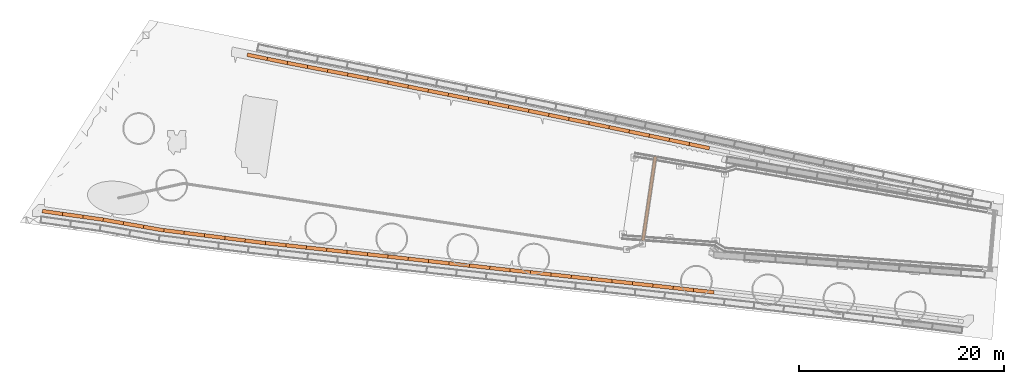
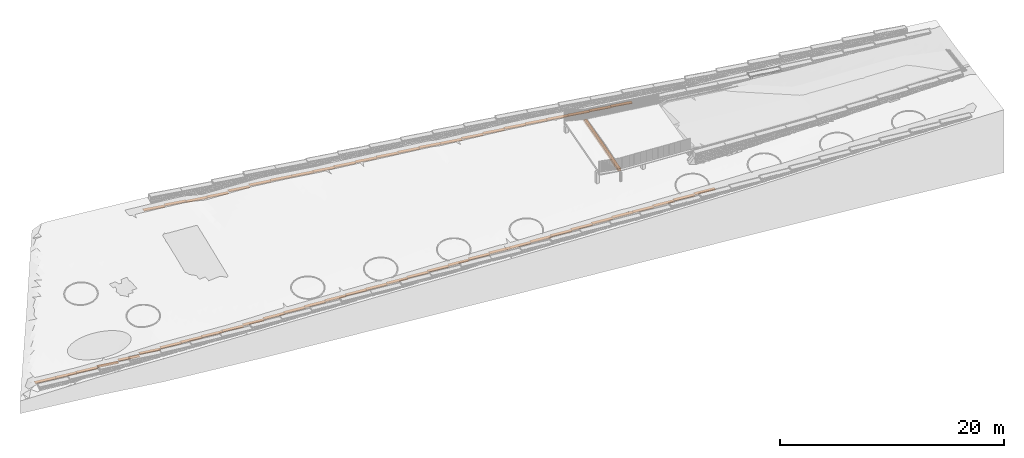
# Not in any storey, part 12 of 45: 57 proxies.
"""IFC4 model written with IfcOpenShell, lengths in metres."""

from ifc_helpers import new_model, si_unit, direction, frame, origin_with_axes, place, context, subcontext, project, spatial, polyline, outline, extrude, material, element, save


model = new_model("IFC4")

# Units and contexts
model_context = context("Model", 3, precision=1e-05, world=origin_with_axes(), true_north=direction((0.0, 1.0)))
body_context = subcontext(model_context, "Body", "Model", "MODEL_VIEW")
ifc_project = project(units=[si_unit("VOLUMEUNIT", "CUBIC_METRE"), si_unit("LENGTHUNIT", "METRE"), si_unit("AREAUNIT", "SQUARE_METRE")], contexts=[model_context])

# Site
site_placement = place(None, origin_with_axes())
site = spatial("IfcSite", under=ifc_project, at=site_placement, Name="Lares · Rua das Mercês · artigo 4771")

# Proxies
ifc_material_1 = material(Name="Caleiras · betão", Category="concrete")
proxy_1_placement = place(site_placement, frame((0.0, 0.0, 15.24), z_axis=(0.0, 0.0, 1.0), x_axis=(1.0, -1.03767253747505e-17, 0.0)))
element("IfcBuildingElementProxy", 1, at=proxy_1_placement, inside=site, material=ifc_material_1, Name="Interceção · caleira estacionamento", ObjectType="Interceção · caleira estacionamento", PredefinedType="USERDEFINED", context=body_context, shape_type="SweptSolid", body=[
    extrude(outline(polyline([(49.7139697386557, 11.3391718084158), (50.0108817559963, 11.2962317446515), (48.8014522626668, 3.0826996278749), (48.5045413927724, 3.12564748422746), (49.7139697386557, 11.3391718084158)])), origin_with_axes(), (0.0, 0.0, 1.0), 0.25),
])
ifc_material_2 = material(Name="Brita drenante", Category="stone")
proxy_2_placement = place(site_placement, frame((0.0, 0.0, 13.4738156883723), z_axis=(0.0, 0.0, 1.0), x_axis=(1.0, -1.03767253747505e-17, 0.0)))
element("IfcBuildingElementProxy", 2, at=proxy_2_placement, inside=site, material=ifc_material_2, Name="Limite north · vala de interceção", ObjectType="Limite north · vala de interceção", PredefinedType="USERDEFINED", context=body_context, shape_type="SweptSolid", body=[
    extrude(outline(polyline([(12.0458830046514, 21.0135119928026), (11.9733673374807, 20.6608911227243), (10.0143625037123, 21.0637559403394), (10.086878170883, 21.4163768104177), (12.0458830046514, 21.0135119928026)])), origin_with_axes(), (0.0, 0.0, 1.0), 0.06),
])
proxy_3_placement = place(site_placement, frame((0.0, 0.0, 13.5828101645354), z_axis=(0.0, 0.0, 1.0), x_axis=(1.0, -1.03767253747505e-17, 0.0)))
element("IfcBuildingElementProxy", 3, at=proxy_3_placement, inside=site, material=ifc_material_2, Name="Limite north · vala de interceção", ObjectType="Limite north · vala de interceção", PredefinedType="USERDEFINED", context=body_context, shape_type="SweptSolid", body=[
    extrude(outline(polyline([(13.7537541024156, 20.6622922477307), (14.0032633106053, 20.6143063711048), (13.935273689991, 20.2607849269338), (13.684631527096, 20.3089886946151), (13.6823685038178, 20.3094389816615), (11.9733673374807, 20.6608911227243), (12.0458830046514, 21.0135119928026), (13.7537541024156, 20.6622922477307)])), origin_with_axes(), (0.0, 0.0, 1.0), 0.06),
])
proxy_4_placement = place(site_placement, frame((0.0, 0.0, 13.5164708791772), z_axis=(0.0, 0.0, 1.0), x_axis=(1.0, -1.03767253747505e-17, 0.0)))
element("IfcBuildingElementProxy", 4, at=proxy_4_placement, inside=site, material=ifc_material_2, Name="Limite north · vala de interceção", ObjectType="Limite north · vala de interceção", PredefinedType="USERDEFINED", context=body_context, shape_type="SweptSolid", body=[
    extrude(outline(polyline([(15.9672713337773, 20.2365862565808), (15.899281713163, 19.8830648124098), (13.935273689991, 20.2607849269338), (14.0032633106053, 20.6143063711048), (15.9672713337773, 20.2365862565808)])), origin_with_axes(), (0.0, 0.0, 1.0), 0.06),
])
proxy_5_placement = place(site_placement, frame((0.0, 0.0, 13.558468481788), z_axis=(0.0, 0.0, 1.0), x_axis=(1.0, -1.03767253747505e-17, 0.0)))
element("IfcBuildingElementProxy", 5, at=proxy_5_placement, inside=site, material=ifc_material_2, Name="Limite north · vala de interceção", ObjectType="Limite north · vala de interceção", PredefinedType="USERDEFINED", context=body_context, shape_type="SweptSolid", body=[
    extrude(outline(polyline([(17.9312793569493, 19.8588661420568), (17.863289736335, 19.5053446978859), (15.899281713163, 19.8830648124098), (15.9672713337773, 20.2365862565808), (17.9312793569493, 19.8588661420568)])), origin_with_axes(), (0.0, 0.0, 1.0), 0.06),
])
proxy_6_placement = place(site_placement, frame((0.0, 0.0, 13.7632660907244), z_axis=(0.0, 0.0, 1.0), x_axis=(1.0, -1.03767253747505e-17, 0.0)))
element("IfcBuildingElementProxy", 6, at=proxy_6_placement, inside=site, material=ifc_material_2, Name="Limite north · vala de interceção", ObjectType="Limite north · vala de interceção", PredefinedType="USERDEFINED", context=body_context, shape_type="SweptSolid", body=[
    extrude(outline(polyline([(19.8952873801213, 19.4811460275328), (19.827297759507, 19.1276245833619), (17.863289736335, 19.5053446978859), (17.9312793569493, 19.8588661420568), (19.8952873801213, 19.4811460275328)])), origin_with_axes(), (0.0, 0.0, 1.0), 0.06),
])
proxy_7_placement = place(site_placement, frame((0.0, 0.0, 13.9369848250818), z_axis=(0.0, 0.0, 1.0), x_axis=(1.0, -1.03767253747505e-17, 0.0)))
element("IfcBuildingElementProxy", 7, at=proxy_7_placement, inside=site, material=ifc_material_2, Name="Limite north · vala de interceção", ObjectType="Limite north · vala de interceção", PredefinedType="USERDEFINED", context=body_context, shape_type="SweptSolid", body=[
    extrude(outline(polyline([(21.807899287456, 19.1133104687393), (21.8096475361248, 19.1129652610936), (21.8609432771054, 19.1025723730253), (21.7894571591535, 18.7497413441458), (21.7390346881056, 18.7599573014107), (19.827297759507, 19.1276245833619), (19.8952873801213, 19.4811460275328), (21.807899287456, 19.1133104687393)])), origin_with_axes(), (0.0, 0.0, 1.0), 0.06),
])
proxy_8_placement = place(site_placement, frame((0.0, 0.0, 13.9992573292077), z_axis=(0.0, 0.0, 1.0), x_axis=(1.0, -1.03767253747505e-17, 0.0)))
element("IfcBuildingElementProxy", 8, at=proxy_8_placement, inside=site, material=ifc_material_2, Name="Limite north · vala de interceção", ObjectType="Limite north · vala de interceção", PredefinedType="USERDEFINED", context=body_context, shape_type="SweptSolid", body=[
    extrude(outline(polyline([(23.8211156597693, 18.7054272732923), (23.7496295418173, 18.3525962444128), (21.7894571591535, 18.7497413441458), (21.8609432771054, 19.1025723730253), (23.8211156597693, 18.7054272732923)])), origin_with_axes(), (0.0, 0.0, 1.0), 0.06),
])
proxy_9_placement = place(site_placement, frame((0.0, 0.0, 14.0174718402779), z_axis=(0.0, 0.0, 1.0), x_axis=(1.0, -1.03767253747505e-17, 0.0)))
element("IfcBuildingElementProxy", 9, at=proxy_9_placement, inside=site, material=ifc_material_2, Name="Limite north · vala de interceção", ObjectType="Limite north · vala de interceção", PredefinedType="USERDEFINED", context=body_context, shape_type="SweptSolid", body=[
    extrude(outline(polyline([(25.7812880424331, 18.3082821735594), (25.7098019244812, 17.9554511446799), (23.7496295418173, 18.3525962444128), (23.8211156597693, 18.7054272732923), (25.7812880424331, 18.3082821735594)])), origin_with_axes(), (0.0, 0.0, 1.0), 0.06),
])
proxy_10_placement = place(site_placement, frame((0.0, 0.0, 14.0656124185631), z_axis=(0.0, 0.0, 1.0), x_axis=(1.0, -1.03767253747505e-17, 0.0)))
element("IfcBuildingElementProxy", 10, at=proxy_10_placement, inside=site, material=ifc_material_2, Name="Limite north · vala de interceção", ObjectType="Limite north · vala de interceção", PredefinedType="USERDEFINED", context=body_context, shape_type="SweptSolid", body=[
    extrude(outline(polyline([(27.565370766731, 17.9468141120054), (27.7410391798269, 17.9117680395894), (27.6706066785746, 17.5587251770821), (27.4946747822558, 17.593823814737), (27.494147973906, 17.5939297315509), (25.7098019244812, 17.9554511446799), (25.7812880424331, 18.3082821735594), (27.565370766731, 17.9468141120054)])), origin_with_axes(), (0.0, 0.0, 1.0), 0.06),
])
proxy_11_placement = place(site_placement, frame((0.0, 0.0, 14.1510970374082), z_axis=(0.0, 0.0, 1.0), x_axis=(1.0, -1.03767253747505e-17, 0.0)))
element("IfcBuildingElementProxy", 11, at=proxy_11_placement, inside=site, material=ifc_material_2, Name="Limite north · vala de interceção", ObjectType="Limite north · vala de interceção", PredefinedType="USERDEFINED", context=body_context, shape_type="SweptSolid", body=[
    extrude(outline(polyline([(29.7023884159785, 17.5204763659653), (29.6319559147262, 17.167433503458), (27.6706066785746, 17.5587251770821), (27.7410391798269, 17.9117680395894), (29.7023884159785, 17.5204763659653)])), origin_with_axes(), (0.0, 0.0, 1.0), 0.06),
])
proxy_12_placement = place(site_placement, frame((0.0, 0.0, 14.2234581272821), z_axis=(0.0, 0.0, 1.0), x_axis=(1.0, -1.03767253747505e-17, 0.0)))
element("IfcBuildingElementProxy", 12, at=proxy_12_placement, inside=site, material=ifc_material_2, Name="Limite north · vala de interceção", ObjectType="Limite north · vala de interceção", PredefinedType="USERDEFINED", context=body_context, shape_type="SweptSolid", body=[
    extrude(outline(polyline([(31.6637376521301, 17.1291846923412), (31.5933051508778, 16.7761418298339), (29.6319559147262, 17.167433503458), (29.7023884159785, 17.5204763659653), (31.6637376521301, 17.1291846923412)])), origin_with_axes(), (0.0, 0.0, 1.0), 0.06),
])
proxy_13_placement = place(site_placement, frame((0.0, 0.0, 14.2939755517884), z_axis=(0.0, 0.0, 1.0), x_axis=(1.0, -1.03767253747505e-17, 0.0)))
element("IfcBuildingElementProxy", 13, at=proxy_13_placement, inside=site, material=ifc_material_2, Name="Limite north · vala de interceção", ObjectType="Limite north · vala de interceção", PredefinedType="USERDEFINED", context=body_context, shape_type="SweptSolid", body=[
    extrude(outline(polyline([(33.6250868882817, 16.7378930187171), (33.5546543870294, 16.3848501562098), (31.5933051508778, 16.7761418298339), (31.6637376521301, 17.1291846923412), (33.6250868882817, 16.7378930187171)])), origin_with_axes(), (0.0, 0.0, 1.0), 0.06),
])
proxy_14_placement = place(site_placement, frame((0.0, 0.0, 14.3644929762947), z_axis=(0.0, 0.0, 1.0), x_axis=(1.0, -1.03767253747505e-17, 0.0)))
element("IfcBuildingElementProxy", 14, at=proxy_14_placement, inside=site, material=ifc_material_2, Name="Limite north · vala de interceção", ObjectType="Limite north · vala de interceção", PredefinedType="USERDEFINED", context=body_context, shape_type="SweptSolid", body=[
    extrude(outline(polyline([(35.5864361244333, 16.346601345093), (35.5160036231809, 15.9935584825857), (33.5546543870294, 16.3848501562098), (33.6250868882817, 16.7378930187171), (35.5864361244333, 16.346601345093)])), origin_with_axes(), (0.0, 0.0, 1.0), 0.06),
])
proxy_15_placement = place(site_placement, frame((0.0, 0.0, 14.4349426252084), z_axis=(0.0, 0.0, 1.0), x_axis=(1.0, -1.03767253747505e-17, 0.0)))
element("IfcBuildingElementProxy", 15, at=proxy_15_placement, inside=site, material=ifc_material_2, Name="Limite north · vala de interceção", ObjectType="Limite north · vala de interceção", PredefinedType="USERDEFINED", context=body_context, shape_type="SweptSolid", body=[
    extrude(outline(polyline([(36.3861439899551, 16.187058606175), (36.3870338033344, 16.1868787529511), (37.5474916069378, 15.9492741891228), (37.4752794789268, 15.5965910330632), (36.3152663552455, 15.83410454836), (35.5160036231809, 15.9935584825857), (35.5864361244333, 16.346601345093), (36.3861439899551, 16.187058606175)])), origin_with_axes(), (0.0, 0.0, 1.0), 0.06),
])
proxy_16_placement = place(site_placement, frame((0.0, 0.0, 14.437421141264), z_axis=(0.0, 0.0, 1.0), x_axis=(1.0, -1.03767253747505e-17, 0.0)))
element("IfcBuildingElementProxy", 16, at=proxy_16_placement, inside=site, material=ifc_material_2, Name="Limite north · vala de interceção", ObjectType="Limite north · vala de interceção", PredefinedType="USERDEFINED", context=body_context, shape_type="SweptSolid", body=[
    extrude(outline(polyline([(39.5068424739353, 15.548095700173), (39.4346303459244, 15.1954125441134), (37.4752794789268, 15.5965910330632), (37.5474916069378, 15.9492741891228), (39.5068424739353, 15.548095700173)])), origin_with_axes(), (0.0, 0.0, 1.0), 0.06),
])
proxy_17_placement = place(site_placement, frame((0.0, 0.0, 14.5450334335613), z_axis=(0.0, 0.0, 1.0), x_axis=(1.0, -1.03767253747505e-17, 0.0)))
element("IfcBuildingElementProxy", 17, at=proxy_17_placement, inside=site, material=ifc_material_2, Name="Limite north · vala de interceção", ObjectType="Limite north · vala de interceção", PredefinedType="USERDEFINED", context=body_context, shape_type="SweptSolid", body=[
    extrude(outline(polyline([(41.4661933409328, 15.1469172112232), (41.3939812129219, 14.7942340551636), (39.4346303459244, 15.1954125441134), (39.5068424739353, 15.548095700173), (41.4661933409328, 15.1469172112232)])), origin_with_axes(), (0.0, 0.0, 1.0), 0.06),
])
proxy_18_placement = place(site_placement, frame((0.0, 0.0, 14.6526457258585), z_axis=(0.0, 0.0, 1.0), x_axis=(1.0, -1.03767253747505e-17, 0.0)))
element("IfcBuildingElementProxy", 18, at=proxy_18_placement, inside=site, material=ifc_material_2, Name="Limite north · vala de interceção", ObjectType="Limite north · vala de interceção", PredefinedType="USERDEFINED", context=body_context, shape_type="SweptSolid", body=[
    extrude(outline(polyline([(43.4255442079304, 14.7457387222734), (43.3533320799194, 14.3930555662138), (41.3939812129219, 14.7942340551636), (41.4661933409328, 15.1469172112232), (43.4255442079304, 14.7457387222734)])), origin_with_axes(), (0.0, 0.0, 1.0), 0.06),
])
proxy_19_placement = place(site_placement, frame((0.0, 0.0, 14.7427260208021), z_axis=(0.0, 0.0, 1.0), x_axis=(1.0, -1.03767253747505e-17, 0.0)))
element("IfcBuildingElementProxy", 19, at=proxy_19_placement, inside=site, material=ifc_material_2, Name="Limite north · vala de interceção", ObjectType="Limite north · vala de interceção", PredefinedType="USERDEFINED", context=body_context, shape_type="SweptSolid", body=[
    extrude(outline(polyline([(45.3848950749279, 14.3445602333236), (45.3126829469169, 13.991877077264), (43.3533320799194, 14.3930555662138), (43.4255442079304, 14.7457387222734), (45.3848950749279, 14.3445602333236)])), origin_with_axes(), (0.0, 0.0, 1.0), 0.06),
])
proxy_20_placement = place(site_placement, frame((0.0, 0.0, 14.8053566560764), z_axis=(0.0, 0.0, 1.0), x_axis=(1.0, -1.03767253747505e-17, 0.0)))
element("IfcBuildingElementProxy", 20, at=proxy_20_placement, inside=site, material=ifc_material_2, Name="Limite north · vala de interceção", ObjectType="Limite north · vala de interceção", PredefinedType="USERDEFINED", context=body_context, shape_type="SweptSolid", body=[
    extrude(outline(polyline([(45.8690664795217, 14.2454257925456), (45.8699313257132, 14.2452465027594), (47.3436109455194, 13.9359676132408), (47.2696691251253, 13.5836430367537), (45.7964217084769, 13.8928312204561), (45.3126829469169, 13.991877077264), (45.3848950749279, 14.3445602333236), (45.8690664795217, 14.2454257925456)])), origin_with_axes(), (0.0, 0.0, 1.0), 0.06),
])
proxy_21_placement = place(site_placement, frame((0.0, 0.0, 14.8355579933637), z_axis=(0.0, 0.0, 1.0), x_axis=(1.0, -1.03767253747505e-17, 0.0)))
element("IfcBuildingElementProxy", 21, at=proxy_21_placement, inside=site, material=ifc_material_2, Name="Limite north · vala de interceção", ObjectType="Limite north · vala de interceção", PredefinedType="USERDEFINED", context=body_context, shape_type="SweptSolid", body=[
    extrude(outline(polyline([(49.3009697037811, 13.5251797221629), (49.227027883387, 13.1728551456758), (47.2696691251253, 13.5836430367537), (47.3436109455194, 13.9359676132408), (49.3009697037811, 13.5251797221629)])), origin_with_axes(), (0.0, 0.0, 1.0), 0.06),
])
proxy_22_placement = place(site_placement, frame((0.0, 0.0, 14.862859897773), z_axis=(0.0, 0.0, 1.0), x_axis=(1.0, -1.03767253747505e-17, 0.0)))
element("IfcBuildingElementProxy", 22, at=proxy_22_placement, inside=site, material=ifc_material_2, Name="Limite north · vala de interceção", ObjectType="Limite north · vala de interceção", PredefinedType="USERDEFINED", context=body_context, shape_type="SweptSolid", body=[
    extrude(outline(polyline([(51.2583284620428, 13.1143918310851), (51.1843866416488, 12.762067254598), (49.227027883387, 13.1728551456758), (49.3009697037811, 13.5251797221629), (51.2583284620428, 13.1143918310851)])), origin_with_axes(), (0.0, 0.0, 1.0), 0.06),
])
proxy_23_placement = place(site_placement, frame((0.0, 0.0, 14.9166186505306), z_axis=(0.0, 0.0, 1.0), x_axis=(1.0, -1.03767253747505e-17, 0.0)))
element("IfcBuildingElementProxy", 23, at=proxy_23_placement, inside=site, material=ifc_material_2, Name="Limite north · vala de interceção", ObjectType="Limite north · vala de interceção", PredefinedType="USERDEFINED", context=body_context, shape_type="SweptSolid", body=[
    extrude(outline(polyline([(53.2156872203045, 12.7036039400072), (53.1417453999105, 12.3512793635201), (51.1843866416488, 12.762067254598), (51.2583284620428, 13.1143918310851), (53.2156872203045, 12.7036039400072)])), origin_with_axes(), (0.0, 0.0, 1.0), 0.06),
])
proxy_24_placement = place(site_placement, frame((0.0, 0.0, 14.9682467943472), z_axis=(0.0, 0.0, 1.0), x_axis=(1.0, -1.03767253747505e-17, 0.0)))
element("IfcBuildingElementProxy", 24, at=proxy_24_placement, inside=site, material=ifc_material_2, Name="Limite north · vala de interceção", ObjectType="Limite north · vala de interceção", PredefinedType="USERDEFINED", context=body_context, shape_type="SweptSolid", body=[
    extrude(outline(polyline([(55.1730459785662, 12.2928160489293), (55.0991041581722, 11.9404914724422), (53.1417453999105, 12.3512793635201), (53.2156872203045, 12.7036039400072), (55.1730459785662, 12.2928160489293)])), origin_with_axes(), (0.0, 0.0, 1.0), 0.06),
])
proxy_25_placement = place(site_placement, frame((0.0, 0.0, 10.921681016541), z_axis=(0.0, 0.0, 1.0), x_axis=(1.0, -1.03767253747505e-17, 0.0)))
element("IfcBuildingElementProxy", 25, at=proxy_25_placement, inside=site, material=ifc_material_2, Name="Limite south · vala de interceção", ObjectType="Limite south · vala de interceção", PredefinedType="USERDEFINED", context=body_context, shape_type="SweptSolid", body=[
    extrude(outline(polyline([(-7.92506020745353, 5.88610903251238), (-7.97522409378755, 5.52962118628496), (-9.95571212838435, 5.80830944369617), (-9.90554824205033, 6.1647972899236), (-7.92506020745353, 5.88610903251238)])), origin_with_axes(), (0.0, 0.0, 1.0), 0.06),
])
proxy_26_placement = place(site_placement, frame((0.0, 0.0, 10.9393821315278), z_axis=(0.0, 0.0, 1.0), x_axis=(1.0, -1.03767253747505e-17, 0.0)))
element("IfcBuildingElementProxy", 26, at=proxy_26_placement, inside=site, material=ifc_material_2, Name="Limite south · vala de interceção", ObjectType="Limite south · vala de interceção", PredefinedType="USERDEFINED", context=body_context, shape_type="SweptSolid", body=[
    extrude(outline(polyline([(-5.94457217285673, 5.60742077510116), (-5.99473605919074, 5.25093292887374), (-7.97522409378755, 5.52962118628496), (-7.92506020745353, 5.88610903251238), (-5.94457217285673, 5.60742077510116)])), origin_with_axes(), (0.0, 0.0, 1.0), 0.06),
])
proxy_27_placement = place(site_placement, frame((0.0, 0.0, 10.9819497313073), z_axis=(0.0, 0.0, 1.0), x_axis=(1.0, -1.03767253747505e-17, 0.0)))
element("IfcBuildingElementProxy", 27, at=proxy_27_placement, inside=site, material=ifc_material_2, Name="Limite south · vala de interceção", ObjectType="Limite south · vala de interceção", PredefinedType="USERDEFINED", context=body_context, shape_type="SweptSolid", body=[
    extrude(outline(polyline([(-4.0119916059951, 5.33547391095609), (-4.0057745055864, 5.33448790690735), (-3.95813205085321, 5.32607551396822), (-4.02073013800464, 4.97155967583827), (-4.06527266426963, 4.97942470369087), (-5.99473605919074, 5.25093292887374), (-5.94457217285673, 5.60742077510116), (-4.0119916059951, 5.33547391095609)])), origin_with_axes(), (0.0, 0.0, 1.0), 0.06),
])
proxy_28_placement = place(site_placement, frame((0.0, 0.0, 11.0965665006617), z_axis=(0.0, 0.0, 1.0), x_axis=(1.0, -1.03767253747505e-17, 0.0)))
element("IfcBuildingElementProxy", 28, at=proxy_28_placement, inside=site, material=ifc_material_2, Name="Limite south · vala de interceção", ObjectType="Limite south · vala de interceção", PredefinedType="USERDEFINED", context=body_context, shape_type="SweptSolid", body=[
    extrude(outline(polyline([(-1.98859961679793, 4.97830836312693), (-2.05119770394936, 4.62379252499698), (-4.02073013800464, 4.97155967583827), (-3.95813205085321, 5.32607551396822), (-1.98859961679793, 4.97830836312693)])), origin_with_axes(), (0.0, 0.0, 1.0), 0.06),
])
proxy_29_placement = place(site_placement, frame((0.0, 0.0, 11.314682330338), z_axis=(0.0, 0.0, 1.0), x_axis=(1.0, -1.03767253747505e-17, 0.0)))
element("IfcBuildingElementProxy", 29, at=proxy_29_placement, inside=site, material=ifc_material_2, Name="Limite south · vala de interceção", ObjectType="Limite south · vala de interceção", PredefinedType="USERDEFINED", context=body_context, shape_type="SweptSolid", body=[
    extrude(outline(polyline([(-0.019067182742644, 4.63054121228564), (-0.081665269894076, 4.27602537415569), (-2.05119770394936, 4.62379252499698), (-1.98859961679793, 4.97830836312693), (-0.019067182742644, 4.63054121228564)])), origin_with_axes(), (0.0, 0.0, 1.0), 0.06),
])
proxy_30_placement = place(site_placement, frame((0.0, 0.0, 11.5619240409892), z_axis=(0.0, 0.0, 1.0), x_axis=(1.0, -1.03767253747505e-17, 0.0)))
element("IfcBuildingElementProxy", 30, at=proxy_30_placement, inside=site, material=ifc_material_2, Name="Limite south · vala de interceção", ObjectType="Limite south · vala de interceção", PredefinedType="USERDEFINED", context=body_context, shape_type="SweptSolid", body=[
    extrude(outline(polyline([(1.69864220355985, 4.32723932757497), (1.94361428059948, 4.29622234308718), (1.89839413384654, 3.93907372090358), (1.64906149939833, 3.97064281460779), (1.64037252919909, 3.97195920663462), (-0.0816652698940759, 4.27602537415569), (-0.019067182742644, 4.63054121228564), (1.69864220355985, 4.32723932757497)])), origin_with_axes(), (0.0, 0.0, 1.0), 0.06),
])
proxy_31_placement = place(site_placement, frame((0.0, 0.0, 11.7044998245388), z_axis=(0.0, 0.0, 1.0), x_axis=(1.0, -1.03767253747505e-17, 0.0)))
element("IfcBuildingElementProxy", 31, at=proxy_31_placement, inside=site, material=ifc_material_2, Name="Limite south · vala de interceção", ObjectType="Limite south · vala de interceção", PredefinedType="USERDEFINED", context=body_context, shape_type="SweptSolid", body=[
    extrude(outline(polyline([(3.92777329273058, 4.04499930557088), (3.88255314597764, 3.68785068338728), (1.89839413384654, 3.93907372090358), (1.94361428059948, 4.29622234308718), (3.92777329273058, 4.04499930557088)])), origin_with_axes(), (0.0, 0.0, 1.0), 0.06),
])
proxy_32_placement = place(site_placement, frame((0.0, 0.0, 11.7661044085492), z_axis=(0.0, 0.0, 1.0), x_axis=(1.0, -1.03767253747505e-17, 0.0)))
element("IfcBuildingElementProxy", 32, at=proxy_32_placement, inside=site, material=ifc_material_2, Name="Limite south · vala de interceção", ObjectType="Limite south · vala de interceção", PredefinedType="USERDEFINED", context=body_context, shape_type="SweptSolid", body=[
    extrude(outline(polyline([(5.91193230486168, 3.79377626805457), (5.86671215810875, 3.43662764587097), (3.88255314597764, 3.68785068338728), (3.92777329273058, 4.04499930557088), (5.91193230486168, 3.79377626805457)])), origin_with_axes(), (0.0, 0.0, 1.0), 0.06),
])
proxy_33_placement = place(site_placement, frame((0.0, 0.0, 11.8277089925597), z_axis=(0.0, 0.0, 1.0), x_axis=(1.0, -1.03767253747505e-17, 0.0)))
element("IfcBuildingElementProxy", 33, at=proxy_33_placement, inside=site, material=ifc_material_2, Name="Limite south · vala de interceção", ObjectType="Limite south · vala de interceção", PredefinedType="USERDEFINED", context=body_context, shape_type="SweptSolid", body=[
    extrude(outline(polyline([(7.89609131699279, 3.54255323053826), (7.85087117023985, 3.18540460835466), (5.86671215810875, 3.43662764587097), (5.91193230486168, 3.79377626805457), (7.89609131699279, 3.54255323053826)])), origin_with_axes(), (0.0, 0.0, 1.0), 0.06),
])
proxy_34_placement = place(site_placement, frame((0.0, 0.0, 11.8893135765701), z_axis=(0.0, 0.0, 1.0), x_axis=(1.0, -1.03767253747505e-17, 0.0)))
element("IfcBuildingElementProxy", 34, at=proxy_34_placement, inside=site, material=ifc_material_2, Name="Limite south · vala de interceção", ObjectType="Limite south · vala de interceção", PredefinedType="USERDEFINED", context=body_context, shape_type="SweptSolid", body=[
    extrude(outline(polyline([(9.88025032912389, 3.29133019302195), (9.83503018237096, 2.93418157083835), (7.85087117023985, 3.18540460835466), (7.89609131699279, 3.54255323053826), (9.88025032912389, 3.29133019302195)])), origin_with_axes(), (0.0, 0.0, 1.0), 0.06),
])
proxy_35_placement = place(site_placement, frame((0.0, 0.0, 12.0238253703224), z_axis=(0.0, 0.0, 1.0), x_axis=(1.0, -1.03767253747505e-17, 0.0)))
element("IfcBuildingElementProxy", 35, at=proxy_35_placement, inside=site, material=ifc_material_2, Name="Limite south · vala de interceção", ObjectType="Limite south · vala de interceção", PredefinedType="USERDEFINED", context=body_context, shape_type="SweptSolid", body=[
    extrude(outline(polyline([(11.2335174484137, 3.11998713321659), (11.8627287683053, 3.05061714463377), (11.8232781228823, 2.6927852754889), (11.192623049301, 2.76231443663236), (11.189738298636, 2.762656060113), (9.83503018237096, 2.93418157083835), (9.88025032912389, 3.29133019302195), (11.2335174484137, 3.11998713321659)])), origin_with_axes(), (0.0, 0.0, 1.0), 0.06),
])
proxy_36_placement = place(site_placement, frame((0.0, 0.0, 12.1612662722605), z_axis=(0.0, 0.0, 1.0), x_axis=(1.0, -1.03767253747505e-17, 0.0)))
element("IfcBuildingElementProxy", 36, at=proxy_36_placement, inside=site, material=ifc_material_2, Name="Limite south · vala de interceção", ObjectType="Limite south · vala de interceção", PredefinedType="USERDEFINED", context=body_context, shape_type="SweptSolid", body=[
    extrude(outline(polyline([(13.8506835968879, 2.83144689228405), (13.8112329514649, 2.47361502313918), (11.8232781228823, 2.6927852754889), (11.8627287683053, 3.05061714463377), (13.8506835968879, 2.83144689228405)])), origin_with_axes(), (0.0, 0.0, 1.0), 0.06),
])
proxy_37_placement = place(site_placement, frame((0.0, 0.0, 12.2467318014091), z_axis=(0.0, 0.0, 1.0), x_axis=(1.0, -1.03767253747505e-17, 0.0)))
element("IfcBuildingElementProxy", 37, at=proxy_37_placement, inside=site, material=ifc_material_2, Name="Limite south · vala de interceção", ObjectType="Limite south · vala de interceção", PredefinedType="USERDEFINED", context=body_context, shape_type="SweptSolid", body=[
    extrude(outline(polyline([(15.8386384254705, 2.61227663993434), (15.7991877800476, 2.25444477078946), (13.8112329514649, 2.47361502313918), (13.8506835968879, 2.83144689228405), (15.8386384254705, 2.61227663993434)])), origin_with_axes(), (0.0, 0.0, 1.0), 0.06),
])
proxy_38_placement = place(site_placement, frame((0.0, 0.0, 12.3321973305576), z_axis=(0.0, 0.0, 1.0), x_axis=(1.0, -1.03767253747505e-17, 0.0)))
element("IfcBuildingElementProxy", 38, at=proxy_38_placement, inside=site, material=ifc_material_2, Name="Limite south · vala de interceção", ObjectType="Limite south · vala de interceção", PredefinedType="USERDEFINED", context=body_context, shape_type="SweptSolid", body=[
    extrude(outline(polyline([(17.8265932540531, 2.39310638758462), (17.7871426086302, 2.03527451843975), (15.7991877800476, 2.25444477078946), (15.8386384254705, 2.61227663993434), (17.8265932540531, 2.39310638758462)])), origin_with_axes(), (0.0, 0.0, 1.0), 0.06),
])
proxy_39_placement = place(site_placement, frame((0.0, 0.0, 12.4130196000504), z_axis=(0.0, 0.0, 1.0), x_axis=(1.0, -1.03767253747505e-17, 0.0)))
element("IfcBuildingElementProxy", 39, at=proxy_39_placement, inside=site, material=ifc_material_2, Name="Limite south · vala de interceção", ObjectType="Limite south · vala de interceção", PredefinedType="USERDEFINED", context=body_context, shape_type="SweptSolid", body=[
    extrude(outline(polyline([(19.8145480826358, 2.1739361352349), (19.7750974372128, 1.81610426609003), (17.7871426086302, 2.03527451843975), (17.8265932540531, 2.39310638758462), (19.8145480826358, 2.1739361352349)])), origin_with_axes(), (0.0, 0.0, 1.0), 0.06),
])
proxy_40_placement = place(site_placement, frame((0.0, 0.0, 12.4859319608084), z_axis=(0.0, 0.0, 1.0), x_axis=(1.0, -1.03767253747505e-17, 0.0)))
element("IfcBuildingElementProxy", 40, at=proxy_40_placement, inside=site, material=ifc_material_2, Name="Limite south · vala de interceção", ObjectType="Limite south · vala de interceção", PredefinedType="USERDEFINED", context=body_context, shape_type="SweptSolid", body=[
    extrude(outline(polyline([(21.8025029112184, 1.95476588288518), (21.7630522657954, 1.59693401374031), (19.7750974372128, 1.81610426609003), (19.8145480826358, 2.1739361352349), (21.8025029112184, 1.95476588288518)])), origin_with_axes(), (0.0, 0.0, 1.0), 0.06),
])
proxy_41_placement = place(site_placement, frame((0.0, 0.0, 12.5417426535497), z_axis=(0.0, 0.0, 1.0), x_axis=(1.0, -1.03767253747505e-17, 0.0)))
element("IfcBuildingElementProxy", 41, at=proxy_41_placement, inside=site, material=ifc_material_2, Name="Limite south · vala de interceção", ObjectType="Limite south · vala de interceção", PredefinedType="USERDEFINED", context=body_context, shape_type="SweptSolid", body=[
    extrude(outline(polyline([(23.621795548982, 1.75419048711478), (23.6220143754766, 1.7541662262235), (23.7906536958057, 1.73536508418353), (23.7507653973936, 1.3775817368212), (23.582235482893, 1.39637068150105), (21.7630522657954, 1.59693401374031), (21.8025029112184, 1.95476588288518), (23.621795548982, 1.75419048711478)])), origin_with_axes(), (0.0, 0.0, 1.0), 0.06),
])
proxy_42_placement = place(site_placement, frame((0.0, 0.0, 12.6188147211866), z_axis=(0.0, 0.0, 1.0), x_axis=(1.0, -1.03767253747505e-17, 0.0)))
element("IfcBuildingElementProxy", 42, at=proxy_42_placement, inside=site, material=ifc_material_2, Name="Limite south · vala de interceção", ObjectType="Limite south · vala de interceção", PredefinedType="USERDEFINED", context=body_context, shape_type="SweptSolid", body=[
    extrude(outline(polyline([(25.7783389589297, 1.5137634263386), (25.7384506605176, 1.15598007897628), (23.7507653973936, 1.3775817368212), (23.7906536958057, 1.73536508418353), (25.7783389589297, 1.5137634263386)])), origin_with_axes(), (0.0, 0.0, 1.0), 0.06),
])
proxy_43_placement = place(site_placement, frame((0.0, 0.0, 12.7191830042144), z_axis=(0.0, 0.0, 1.0), x_axis=(1.0, -1.03767253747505e-17, 0.0)))
element("IfcBuildingElementProxy", 43, at=proxy_43_placement, inside=site, material=ifc_material_2, Name="Limite south · vala de interceção", ObjectType="Limite south · vala de interceção", PredefinedType="USERDEFINED", context=body_context, shape_type="SweptSolid", body=[
    extrude(outline(polyline([(27.7660242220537, 1.29216176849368), (27.7261359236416, 0.934378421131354), (25.7384506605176, 1.15598007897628), (25.7783389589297, 1.5137634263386), (27.7660242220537, 1.29216176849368)])), origin_with_axes(), (0.0, 0.0, 1.0), 0.06),
])
proxy_44_placement = place(site_placement, frame((0.0, 0.0, 12.8193544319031), z_axis=(0.0, 0.0, 1.0), x_axis=(1.0, -1.03767253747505e-17, 0.0)))
element("IfcBuildingElementProxy", 44, at=proxy_44_placement, inside=site, material=ifc_material_2, Name="Limite south · vala de interceção", ObjectType="Limite south · vala de interceção", PredefinedType="USERDEFINED", context=body_context, shape_type="SweptSolid", body=[
    extrude(outline(polyline([(29.7537094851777, 1.07056011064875), (29.7138211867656, 0.712776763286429), (27.7261359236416, 0.934378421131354), (27.7660242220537, 1.29216176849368), (29.7537094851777, 1.07056011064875)])), origin_with_axes(), (0.0, 0.0, 1.0), 0.06),
])
proxy_45_placement = place(site_placement, frame((0.0, 0.0, 12.9183907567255), z_axis=(0.0, 0.0, 1.0), x_axis=(1.0, -1.03767253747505e-17, 0.0)))
element("IfcBuildingElementProxy", 45, at=proxy_45_placement, inside=site, material=ifc_material_2, Name="Limite south · vala de interceção", ObjectType="Limite south · vala de interceção", PredefinedType="USERDEFINED", context=body_context, shape_type="SweptSolid", body=[
    extrude(outline(polyline([(31.7413947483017, 0.848958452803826), (31.7015064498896, 0.491175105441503), (29.7138211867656, 0.712776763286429), (29.7537094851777, 1.07056011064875), (31.7413947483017, 0.848958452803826)])), origin_with_axes(), (0.0, 0.0, 1.0), 0.06),
])
proxy_46_placement = place(site_placement, frame((0.0, 0.0, 13.0174270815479), z_axis=(0.0, 0.0, 1.0), x_axis=(1.0, -1.03767253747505e-17, 0.0)))
element("IfcBuildingElementProxy", 46, at=proxy_46_placement, inside=site, material=ifc_material_2, Name="Limite south · vala de interceção", ObjectType="Limite south · vala de interceção", PredefinedType="USERDEFINED", context=body_context, shape_type="SweptSolid", body=[
    extrude(outline(polyline([(33.7290800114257, 0.627356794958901), (33.6891917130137, 0.269573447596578), (31.7015064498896, 0.491175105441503), (31.7413947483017, 0.848958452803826), (33.7290800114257, 0.627356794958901)])), origin_with_axes(), (0.0, 0.0, 1.0), 0.06),
])
proxy_47_placement = place(site_placement, frame((0.0, 0.0, 13.1164634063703), z_axis=(0.0, 0.0, 1.0), x_axis=(1.0, -1.03767253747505e-17, 0.0)))
element("IfcBuildingElementProxy", 47, at=proxy_47_placement, inside=site, material=ifc_material_2, Name="Limite south · vala de interceção", ObjectType="Limite south · vala de interceção", PredefinedType="USERDEFINED", context=body_context, shape_type="SweptSolid", body=[
    extrude(outline(polyline([(35.2866373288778, 0.453708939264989), (35.7162568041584, 0.407488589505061), (35.6777486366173, 0.0495540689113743), (35.2477840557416, 0.095811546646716), (35.247093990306, 0.0958871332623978), (33.6891917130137, 0.269573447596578), (33.7290800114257, 0.627356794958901), (35.2866373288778, 0.453708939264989)])), origin_with_axes(), (0.0, 0.0, 1.0), 0.06),
])
proxy_48_placement = place(site_placement, frame((0.0, 0.0, 13.1293433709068), z_axis=(0.0, 0.0, 1.0), x_axis=(1.0, -1.03767253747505e-17, 0.0)))
element("IfcBuildingElementProxy", 48, at=proxy_48_placement, inside=site, material=ifc_material_2, Name="Limite south · vala de interceção", ObjectType="Limite south · vala de interceção", PredefinedType="USERDEFINED", context=body_context, shape_type="SweptSolid", body=[
    extrude(outline(polyline([(37.7047819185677, 0.19355432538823), (37.6662737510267, -0.164380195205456), (35.6777486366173, 0.0495540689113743), (35.7162568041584, 0.407488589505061), (37.7047819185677, 0.19355432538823)])), origin_with_axes(), (0.0, 0.0, 1.0), 0.06),
])
proxy_49_placement = place(site_placement, frame((0.0, 0.0, 13.2167736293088), z_axis=(0.0, 0.0, 1.0), x_axis=(1.0, -1.03767253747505e-17, 0.0)))
element("IfcBuildingElementProxy", 49, at=proxy_49_placement, inside=site, material=ifc_material_2, Name="Limite south · vala de interceção", ObjectType="Limite south · vala de interceção", PredefinedType="USERDEFINED", context=body_context, shape_type="SweptSolid", body=[
    extrude(outline(polyline([(39.6933070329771, -0.0203799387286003), (39.6547988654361, -0.378314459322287), (37.6662737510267, -0.164380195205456), (37.7047819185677, 0.19355432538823), (39.6933070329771, -0.0203799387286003)])), origin_with_axes(), (0.0, 0.0, 1.0), 0.06),
])
proxy_50_placement = place(site_placement, frame((0.0, 0.0, 13.3080985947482), z_axis=(0.0, 0.0, 1.0), x_axis=(1.0, -1.03767253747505e-17, 0.0)))
element("IfcBuildingElementProxy", 50, at=proxy_50_placement, inside=site, material=ifc_material_2, Name="Limite south · vala de interceção", ObjectType="Limite south · vala de interceção", PredefinedType="USERDEFINED", context=body_context, shape_type="SweptSolid", body=[
    extrude(outline(polyline([(41.6818321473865, -0.234314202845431), (41.6433239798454, -0.592248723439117), (39.6547988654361, -0.378314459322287), (39.6933070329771, -0.0203799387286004), (41.6818321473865, -0.234314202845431)])), origin_with_axes(), (0.0, 0.0, 1.0), 0.06),
])
proxy_51_placement = place(site_placement, frame((0.0, 0.0, 13.4083087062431), z_axis=(0.0, 0.0, 1.0), x_axis=(1.0, -1.03767253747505e-17, 0.0)))
element("IfcBuildingElementProxy", 51, at=proxy_51_placement, inside=site, material=ifc_material_2, Name="Limite south · vala de interceção", ObjectType="Limite south · vala de interceção", PredefinedType="USERDEFINED", context=body_context, shape_type="SweptSolid", body=[
    extrude(outline(polyline([(43.6703572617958, -0.448248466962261), (43.6318490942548, -0.806182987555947), (41.6433239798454, -0.592248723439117), (41.6818321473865, -0.234314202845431), (43.6703572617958, -0.448248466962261)])), origin_with_axes(), (0.0, 0.0, 1.0), 0.06),
])
proxy_52_placement = place(site_placement, frame((0.0, 0.0, 13.508518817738), z_axis=(0.0, 0.0, 1.0), x_axis=(1.0, -1.03767253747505e-17, 0.0)))
element("IfcBuildingElementProxy", 52, at=proxy_52_placement, inside=site, material=ifc_material_2, Name="Limite south · vala de interceção", ObjectType="Limite south · vala de interceção", PredefinedType="USERDEFINED", context=body_context, shape_type="SweptSolid", body=[
    extrude(outline(polyline([(45.6588823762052, -0.662182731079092), (45.6203742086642, -1.02011725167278), (43.6318490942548, -0.806182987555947), (43.6703572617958, -0.448248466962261), (45.6588823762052, -0.662182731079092)])), origin_with_axes(), (0.0, 0.0, 1.0), 0.06),
])
proxy_53_placement = place(site_placement, frame((0.0, 0.0, 13.6087289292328), z_axis=(0.0, 0.0, 1.0), x_axis=(1.0, -1.03767253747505e-17, 0.0)))
element("IfcBuildingElementProxy", 53, at=proxy_53_placement, inside=site, material=ifc_material_2, Name="Limite south · vala de interceção", ObjectType="Limite south · vala de interceção", PredefinedType="USERDEFINED", context=body_context, shape_type="SweptSolid", body=[
    extrude(outline(polyline([(47.2895826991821, -0.837620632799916), (47.2901932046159, -0.837687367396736), (47.6478845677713, -0.877404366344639), (47.6081553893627, -1.23520541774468), (47.2507692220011, -1.19552230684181), (45.6203742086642, -1.02011725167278), (45.6588823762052, -0.662182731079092), (47.2895826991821, -0.837620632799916)])), origin_with_axes(), (0.0, 0.0, 1.0), 0.06),
])
proxy_54_placement = place(site_placement, frame((0.0, 0.0, 13.6375161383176), z_axis=(0.0, 0.0, 1.0), x_axis=(1.0, -1.03767253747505e-17, 0.0)))
element("IfcBuildingElementProxy", 54, at=proxy_54_placement, inside=site, material=ifc_material_2, Name="Limite south · vala de interceção", ObjectType="Limite south · vala de interceção", PredefinedType="USERDEFINED", context=body_context, shape_type="SweptSolid", body=[
    extrude(outline(polyline([(49.6356681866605, -1.09812202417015), (49.5959390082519, -1.45592307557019), (47.6081553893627, -1.23520541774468), (47.6478845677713, -0.877404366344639), (49.6356681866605, -1.09812202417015)])), origin_with_axes(), (0.0, 0.0, 1.0), 0.06),
])
proxy_55_placement = place(site_placement, frame((0.0, 0.0, 13.7221213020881), z_axis=(0.0, 0.0, 1.0), x_axis=(1.0, -1.03767253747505e-17, 0.0)))
element("IfcBuildingElementProxy", 55, at=proxy_55_placement, inside=site, material=ifc_material_2, Name="Limite south · vala de interceção", ObjectType="Limite south · vala de interceção", PredefinedType="USERDEFINED", context=body_context, shape_type="SweptSolid", body=[
    extrude(outline(polyline([(51.6234518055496, -1.31883968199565), (51.583722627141, -1.6766407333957), (49.5959390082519, -1.45592307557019), (49.6356681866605, -1.09812202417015), (51.6234518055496, -1.31883968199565)])), origin_with_axes(), (0.0, 0.0, 1.0), 0.06),
])
proxy_56_placement = place(site_placement, frame((0.0, 0.0, 13.813025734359), z_axis=(0.0, 0.0, 1.0), x_axis=(1.0, -1.03767253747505e-17, 0.0)))
element("IfcBuildingElementProxy", 56, at=proxy_56_placement, inside=site, material=ifc_material_2, Name="Limite south · vala de interceção", ObjectType="Limite south · vala de interceção", PredefinedType="USERDEFINED", context=body_context, shape_type="SweptSolid", body=[
    extrude(outline(polyline([(53.6112354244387, -1.53955733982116), (53.5715062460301, -1.89735839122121), (51.583722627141, -1.6766407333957), (51.6234518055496, -1.31883968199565), (53.6112354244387, -1.53955733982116)])), origin_with_axes(), (0.0, 0.0, 1.0), 0.06),
])
proxy_57_placement = place(site_placement, frame((0.0, 0.0, 13.9205195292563), z_axis=(0.0, 0.0, 1.0), x_axis=(1.0, -1.03767253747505e-17, 0.0)))
element("IfcBuildingElementProxy", 57, at=proxy_57_placement, inside=site, material=ifc_material_2, Name="Limite south · vala de interceção", ObjectType="Limite south · vala de interceção", PredefinedType="USERDEFINED", context=body_context, shape_type="SweptSolid", body=[
    extrude(outline(polyline([(55.5990190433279, -1.76027499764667), (55.5592898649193, -2.11807604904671), (53.5715062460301, -1.89735839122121), (53.6112354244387, -1.53955733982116), (55.5990190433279, -1.76027499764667)])), origin_with_axes(), (0.0, 0.0, 1.0), 0.06),
])

save(model, "model.ifc")
